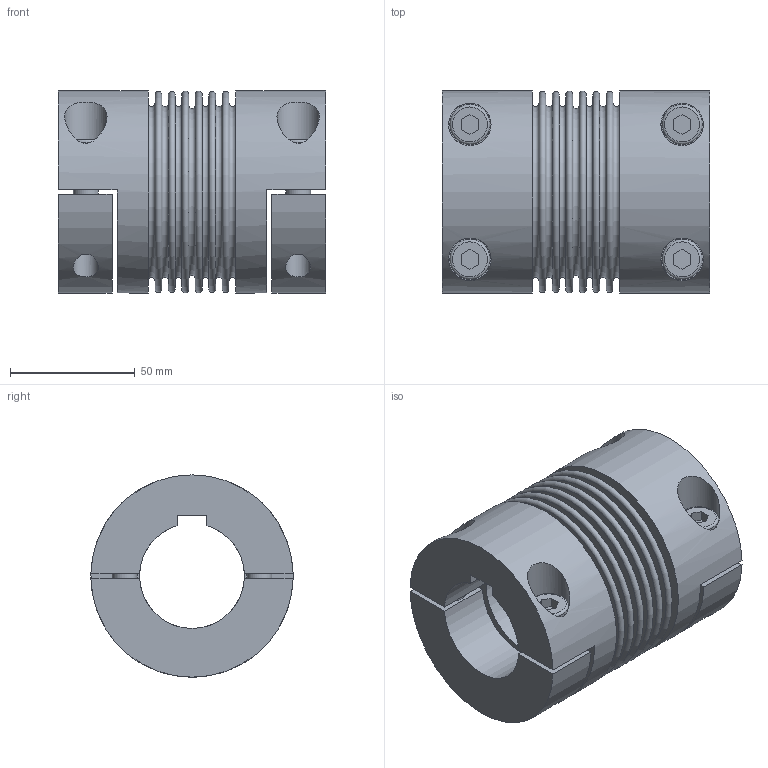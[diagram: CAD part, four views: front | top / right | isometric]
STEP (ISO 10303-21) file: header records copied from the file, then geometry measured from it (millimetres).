
FILE_DESCRIPTION(/* description */ ('STEP AP214'),/* implementation_level */ '2;1');
FILE_NAME(/* name */ 'C:\Diequa Files\DieQua Coupling\BCS\STP\BCS.150.107.#.#.stp',/* time_stamp */ '2018-11-15T09:41:31-06:00',/* author */ ('DiequaCAD'),/* organization */ (''),/* preprocessor_version */ 'ST-DEVELOPER v17.2',/* originating_system */ 'Autodesk Inventor 2019',/* authorisation */ ' ');
FILE_SCHEMA (('AUTOMOTIVE_DESIGN { 1 0 10303 214 3 1 1 }'));
Length unit declared in the file: millimetre
Products named in the file (1): BKH_150_107_42_PFN_42_PFN_21
Bounding box: 107 x 81 x 81 mm (x, y, z)
Volume: 308943.6 mm3; surface area: 85984.6 mm2
Topology: 1 solids, 1 shells, 120 faces, 280 edges, 196 vertices
Faces by surface type: plane 78, cylinder 25, torus 17
Full cylindrical faces by diameter (mm): 10 x8, 16 x4, 17 x4, 56 x1, 81 x2
Entity records: 3851 total; most frequent: CARTESIAN_POINT 897, DIRECTION 635, ORIENTED_EDGE 560, EDGE_CURVE 280, AXIS2_PLACEMENT_3D 246, VERTEX_POINT 196, EDGE_LOOP 160, LINE 143
